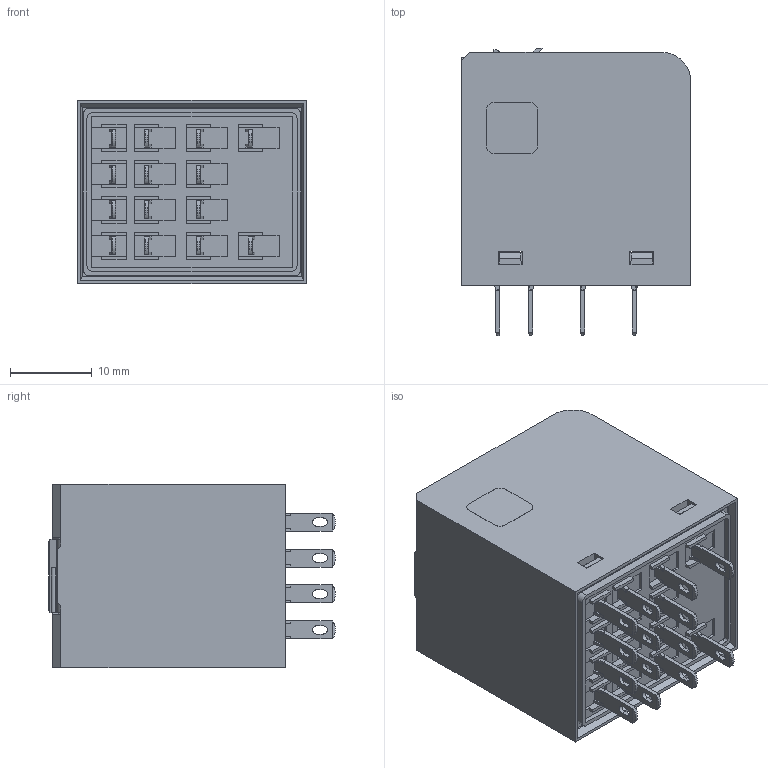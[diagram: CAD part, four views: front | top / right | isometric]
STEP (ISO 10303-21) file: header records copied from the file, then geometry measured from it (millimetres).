
FILE_DESCRIPTION(('STEP AP214'), '1');
FILE_NAME('Ðåëå ïðîìåæóòî÷íîå ÐÏ30-004 (íà ïîêàç)', '', ('UNSPECIFIED'), ('UNSPECIFIED'), 'ASCON STEP Converter 1.6', 'ASCON Math Kernel', '');
FILE_SCHEMA(('AUTOMOTIVE_DESIGN { 1 0 10303 214 3 1 1}'));
Length unit declared in the file: millimetre
Bounding box: 28 x 35.1 x 22.5 mm (x, y, z)
Volume: 4435.7 mm3; surface area: 9254.3 mm2
Topology: 9 solids, 9 shells, 922 faces, 2404 edges, 1512 vertices
Faces by surface type: plane 775, cylinder 146, cone 1
Full cylindrical faces by diameter (mm): 0.6 x2
Entity records: 35198 total; most frequent: CARTESIAN_POINT 4922, ORIENTED_EDGE 4802, DIRECTION 4541, EDGE_CURVE 2401, LINE 2051, VECTOR 2051, VERTEX_POINT 1514, AXIS2_PLACEMENT_3D 1245
